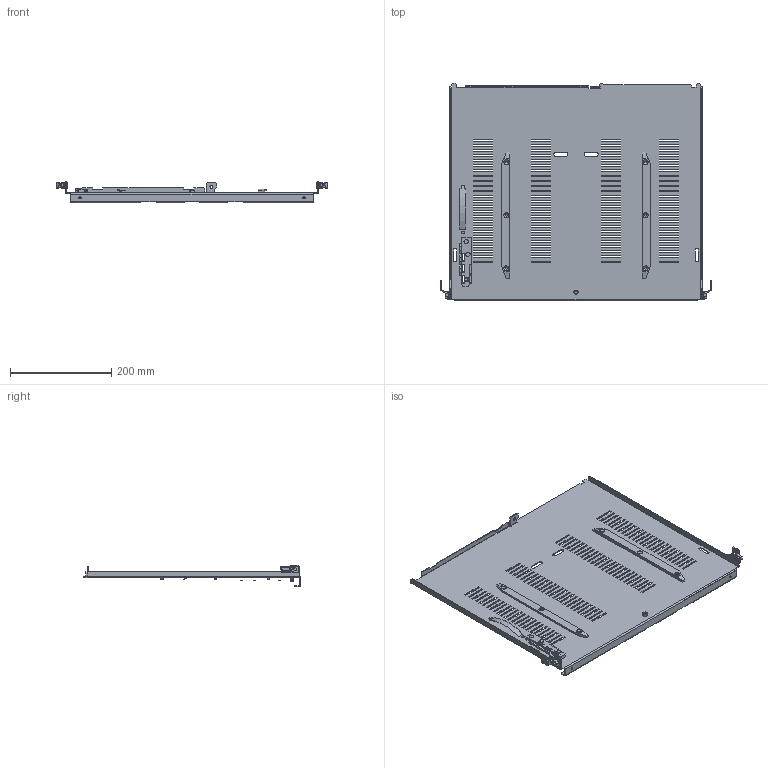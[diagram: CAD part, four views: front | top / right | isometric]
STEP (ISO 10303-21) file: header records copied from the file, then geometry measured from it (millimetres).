
FILE_DESCRIPTION(('CAx-IF Rec.Pracs.---Model Styling and Organization---1.2---2011-12-15','CAx-IF Rec.Pracs.---Geometric and Assembly Validation Properties---4.1---2014-06-16','CAx-IF Rec.Pracs.---PMI Polyline Presentation---2.0---2013-05-24'),'2;1');
FILE_NAME('R5M2WXM1.stp','2021-05-05T12:43:55+03:00',(''),(''),'STEP Interface 4.4 by CT CoreTechnologie','3D_Evolution4.4 by CT CoreTechnologie','');
FILE_SCHEMA(('AUTOMOTIVE_DESIGN { 1 0 10303 214 1 1 1 1 }'));
Length unit declared in the file: millimetre
Products named in the file (12): R5M2WXM1; RB.1167.00.00.0 ÑÁ_-00 (XM1); M5x10 GOST 11738-84 (DIN 912)_stright; RB.1167.00.03.0_-00; Ì4-GOST R 50273-92 (DIN 985)_stright DIN EN ISO 10511 - M4 - N; RB.1167.00.01.0_-00; RB.1505.00.02.0; RB.1167.00.02.0; M5x12-DIN 7500M ISR_stright; M5-DIN 985 (ISO 10511)._stright; M6 x 16-DIN 7991 ISR_thread; AC00C485
Assembly tree (21 placements, depth 3):
  R5M2WXM1
    RB.1167.00.00.0 ÑÁ_-00 (XM1)
      M5x10 GOST 11738-84 (DIN 912)_stright
      RB.1167.00.03.0_-00
      Ì4-GOST R 50273-92 (DIN 985)_stright DIN EN ISO 10511 - M4 - N  x3
      RB.1167.00.01.0_-00
      RB.1505.00.02.0  x2
      RB.1167.00.02.0
      M5x12-DIN 7500M ISR_stright  x6
      M5-DIN 985 (ISO 10511)._stright
    M6 x 16-DIN 7991 ISR_thread  x2
    AC00C485  x2
Bounding box: 537 x 430 x 43 mm (x, y, z)
Surface area: 499431.4 mm2 (no closed solid volume)
Topology: 0 solids, 26 shells, 966 faces, 2598 edges, 1677 vertices
Faces by surface type: plane 738, cylinder 174, bspline 54
Entity records: 27332 total; most frequent: CARTESIAN_POINT 5268, ORIENTED_EDGE 4502, DIRECTION 4099, EDGE_CURVE 2253, VECTOR 1991, LINE 1991, VERTEX_POINT 1469, EDGE_LOOP 1062
